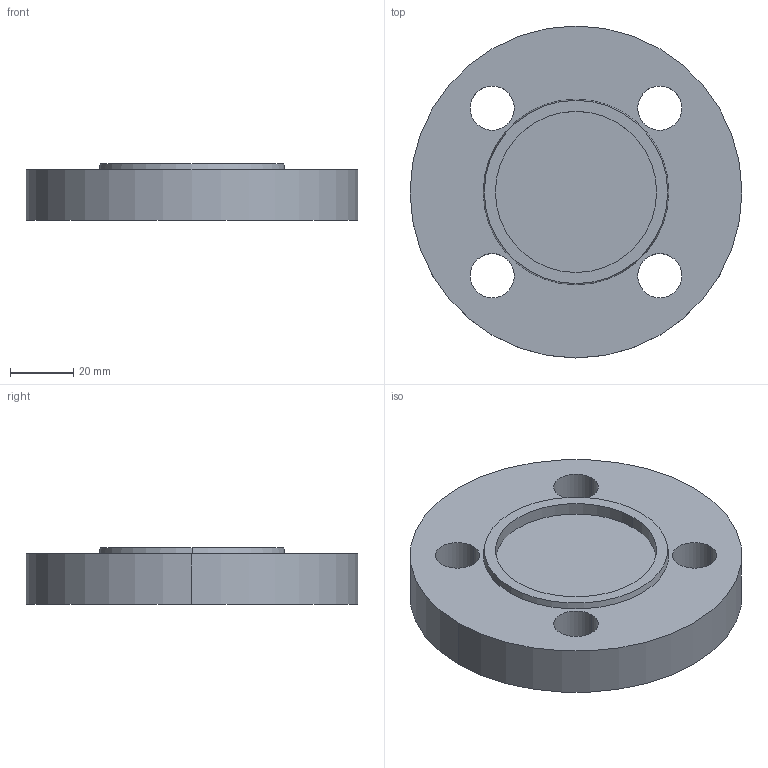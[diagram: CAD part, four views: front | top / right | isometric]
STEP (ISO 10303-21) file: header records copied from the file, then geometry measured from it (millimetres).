
FILE_DESCRIPTION (( 'STEP AP214' ), '1' );
FILE_NAME ('PN40 DN20 Type 05 - Type F Face.STEP', '2018-12-29T18:23:34', ( '' ), ( '' ), 'SwSTEP 2.0', 'SolidWorks 2019', '' );
FILE_SCHEMA (( 'AUTOMOTIVE_DESIGN' ));
Length unit declared in the file: millimetre
Products named in the file (1): PN40 DN20 Type 05 - Type F Face
Bounding box: 105 x 105 x 18 mm (x, y, z)
Volume: 125869.6 mm3; surface area: 25127.8 mm2
Topology: 1 solids, 1 shells, 18 faces, 42 edges, 28 vertices
Faces by surface type: cylinder 12, plane 4, cone 2
Entity records: 584 total; most frequent: DIRECTION 108, CARTESIAN_POINT 89, ORIENTED_EDGE 84, AXIS2_PLACEMENT_3D 47, EDGE_CURVE 42, CIRCLE 28, EDGE_LOOP 28, VERTEX_POINT 28
